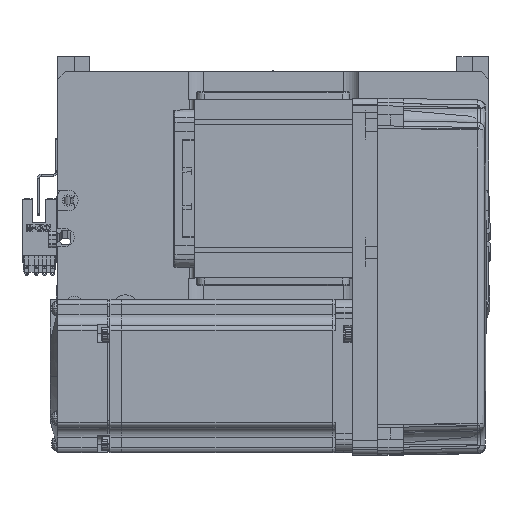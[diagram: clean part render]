
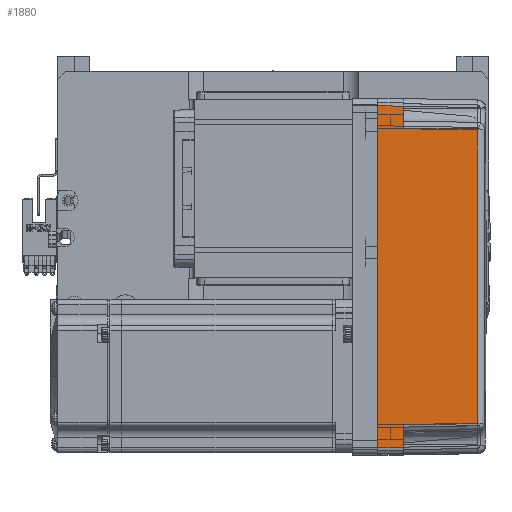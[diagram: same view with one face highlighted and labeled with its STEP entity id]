
A CAD part, top view. The second image highlights one B-rep face of the part: STEP entity #1880.
In plain terms, the highlighted planar face has unit normal (0.018, 0, 1) as drawn and (0, 1, 0.017) by its records, which use the part's own axes.
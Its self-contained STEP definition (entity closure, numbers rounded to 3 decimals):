
#297 = VERTEX_POINT ( 'NONE', #47258 ) ;
#588 = LINE ( 'NONE', #22201, #47683 ) ;
#1660 = VECTOR ( 'NONE', #53997, 1000. ) ;
#1880 = ADVANCED_FACE ( 'NONE', ( #42975 ), #50034, .T. ) ;
#1943 = EDGE_CURVE ( 'NONE', #24412, #297, #34962, .T. ) ;
#2150 = CARTESIAN_POINT ( 'NONE',  ( 67., 36., 0. ) ) ;
#2739 = DIRECTION ( 'NONE',  ( 0.017, -0.017, 1. ) ) ;
#2895 = EDGE_CURVE ( 'NONE', #40294, #53018, #32463, .T. ) ;
#3774 = VECTOR ( 'NONE', #48038, 1000. ) ;
#5220 = AXIS2_PLACEMENT_3D ( 'NONE', #64830, #64613, #34055 ) ;
#5891 = VECTOR ( 'NONE', #2739, 1000. ) ;
#6940 = ORIENTED_EDGE ( 'NONE', *, *, #21470, .F. ) ;
#7819 = VERTEX_POINT ( 'NONE', #39128 ) ;
#8003 = ORIENTED_EDGE ( 'NONE', *, *, #21568, .T. ) ;
#10170 = VERTEX_POINT ( 'NONE', #2150 ) ;
#10321 = CARTESIAN_POINT ( 'NONE',  ( -57.495, 35.32, 38.985 ) ) ;
#11246 = CARTESIAN_POINT ( 'NONE',  ( -67., 36., 0. ) ) ;
#11294 = LINE ( 'NONE', #48634, #1660 ) ;
#11323 = DIRECTION ( 'NONE',  ( 0.017, -0.017, 1. ) ) ;
#12366 = CARTESIAN_POINT ( 'NONE',  ( -67., 36., 0. ) ) ;
#14244 = EDGE_CURVE ( 'NONE', #297, #7819, #11294, .T. ) ;
#16158 = CARTESIAN_POINT ( 'NONE',  ( 57.495, 35.32, 38.985 ) ) ;
#17638 = VECTOR ( 'NONE', #41388, 1000. ) ;
#19505 = LINE ( 'NONE', #12366, #5891 ) ;
#19924 = EDGE_CURVE ( 'NONE', #56406, #10170, #36824, .T. ) ;
#20601 = CARTESIAN_POINT ( 'NONE',  ( 19.165, 35.316, 39.181 ) ) ;
#21387 = CARTESIAN_POINT ( 'NONE',  ( -58., 35.825, 10. ) ) ;
#21470 = EDGE_CURVE ( 'NONE', #10170, #7819, #588, .T. ) ;
#21568 = EDGE_CURVE ( 'NONE', #46710, #40294, #37376, .T. ) ;
#22201 = CARTESIAN_POINT ( 'NONE',  ( 67.001, 36.001, -0.052 ) ) ;
#22418 = DIRECTION ( 'NONE',  ( -0.017, -0.017, 1. ) ) ;
#23672 = CARTESIAN_POINT ( 'NONE',  ( -58., 35.825, 10. ) ) ;
#24412 = VERTEX_POINT ( 'NONE', #57751 ) ;
#24653 = ORIENTED_EDGE ( 'NONE', *, *, #19924, .F. ) ;
#25544 = CARTESIAN_POINT ( 'NONE',  ( -66.826, 35.825, 10. ) ) ;
#25722 = CARTESIAN_POINT ( 'NONE',  ( 57.495, 35.32, 38.985 ) ) ;
#32453 = ORIENTED_EDGE ( 'NONE', *, *, #37829, .T. ) ;
#32463 = LINE ( 'NONE', #21387, #61185 ) ;
#34055 = DIRECTION ( 'NONE',  ( 0., -0.017, 1. ) ) ;
#34057 = EDGE_CURVE ( 'NONE', #53018, #24412, #39686, .T. ) ;
#34513 = CARTESIAN_POINT ( 'NONE',  ( 70., 35.825, 10. ) ) ;
#34962 = LINE ( 'NONE', #16158, #41381 ) ;
#36824 = LINE ( 'NONE', #41174, #17638 ) ;
#37376 = LINE ( 'NONE', #34513, #3774 ) ;
#37829 = EDGE_CURVE ( 'NONE', #56406, #46710, #19505, .T. ) ;
#38613 = CARTESIAN_POINT ( 'NONE',  ( -57.495, 35.32, 38.985 ) ) ;
#39128 = CARTESIAN_POINT ( 'NONE',  ( 66.826, 35.825, 10. ) ) ;
#39686 = B_SPLINE_CURVE_WITH_KNOTS ( 'NONE', 3,
 ( #10321, #45979, #20601, #25722 ),
 .UNSPECIFIED., .F., .F.,
 ( 4, 4 ),
 ( 0., 1. ),
 .UNSPECIFIED. ) ;
#40294 = VERTEX_POINT ( 'NONE', #23672 ) ;
#41048 = ORIENTED_EDGE ( 'NONE', *, *, #34057, .T. ) ;
#41125 = ORIENTED_EDGE ( 'NONE', *, *, #14244, .T. ) ;
#41174 = CARTESIAN_POINT ( 'NONE',  ( 0., 36., 0. ) ) ;
#41223 = ORIENTED_EDGE ( 'NONE', *, *, #2895, .T. ) ;
#41381 = VECTOR ( 'NONE', #62126, 1000. ) ;
#41388 = DIRECTION ( 'NONE',  ( 1., 0., 0. ) ) ;
#42975 = FACE_OUTER_BOUND ( 'NONE', #50203, .T. ) ;
#45979 = CARTESIAN_POINT ( 'NONE',  ( -19.165, 35.316, 39.181 ) ) ;
#46710 = VERTEX_POINT ( 'NONE', #25544 ) ;
#47258 = CARTESIAN_POINT ( 'NONE',  ( 58., 35.825, 10. ) ) ;
#47683 = VECTOR ( 'NONE', #22418, 1000. ) ;
#48038 = DIRECTION ( 'NONE',  ( 1., 0., 0. ) ) ;
#48634 = CARTESIAN_POINT ( 'NONE',  ( 70., 35.825, 10. ) ) ;
#50034 = PLANE ( 'NONE',  #5220 ) ;
#50203 = EDGE_LOOP ( 'NONE', ( #32453, #8003, #41223, #41048, #61427, #41125, #6940, #24653 ) ) ;
#53018 = VERTEX_POINT ( 'NONE', #38613 ) ;
#53997 = DIRECTION ( 'NONE',  ( 1., 0., 0. ) ) ;
#56406 = VERTEX_POINT ( 'NONE', #11246 ) ;
#57751 = CARTESIAN_POINT ( 'NONE',  ( 57.495, 35.32, 38.985 ) ) ;
#61185 = VECTOR ( 'NONE', #11323, 1000. ) ;
#61427 = ORIENTED_EDGE ( 'NONE', *, *, #1943, .T. ) ;
#62126 = DIRECTION ( 'NONE',  ( 0.017, 0.017, -1. ) ) ;
#64613 = DIRECTION ( 'NONE',  ( 0., 1., 0.017 ) ) ;
#64830 = CARTESIAN_POINT ( 'NONE',  ( 70., 36., 0. ) ) ;
